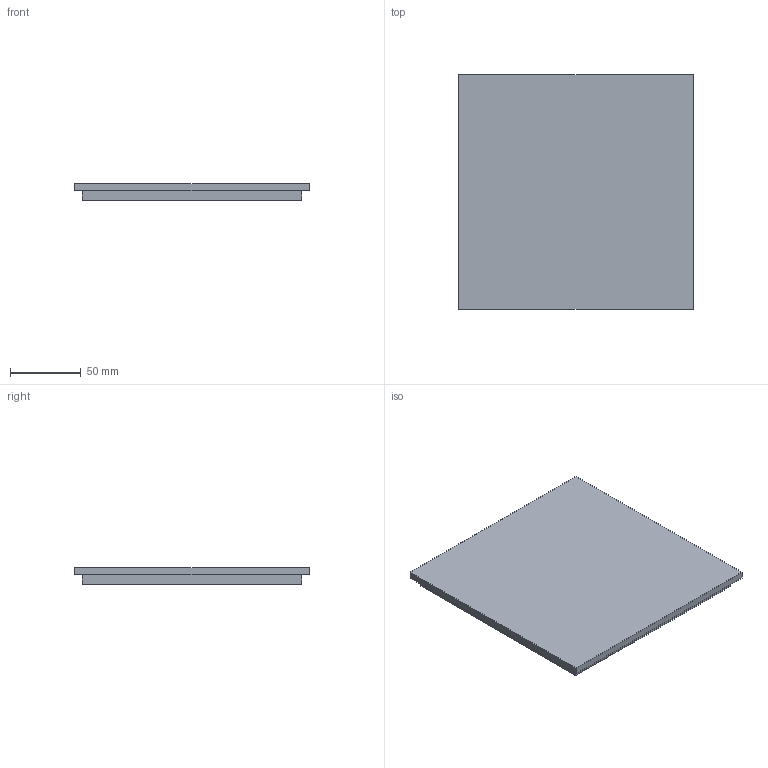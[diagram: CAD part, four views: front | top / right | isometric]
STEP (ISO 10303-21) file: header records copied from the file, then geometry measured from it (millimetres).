
FILE_DESCRIPTION(('Open CASCADE Model'),'2;1');
FILE_NAME('Open CASCADE Shape Model','2026-09-10T23:36:50',('Author'),( 'Open CASCADE'),'Open CASCADE STEP processor 7.9','Open CASCADE 7.9' ,'Unknown');
FILE_SCHEMA(('AUTOMOTIVE_DESIGN { 1 0 10303 214 1 1 1 1 }'));
Length unit declared in the file: millimetre
Products named in the file (1): Open CASCADE STEP translator 7.9 12
Bounding box: 166 x 166 x 12 mm (x, y, z)
Volume: 150548 mm3; surface area: 66944 mm2
Topology: 1 solids, 1 shells, 16 faces, 36 edges, 24 vertices
Faces by surface type: plane 16
Entity records: 914 total; most frequent: CARTESIAN_POINT 153, DIRECTION 138, LINE 104, VECTOR 104, ORIENTED_EDGE 72, PCURVE 72, DEFINITIONAL_REPRESENTATION 72, EDGE_CURVE 36
